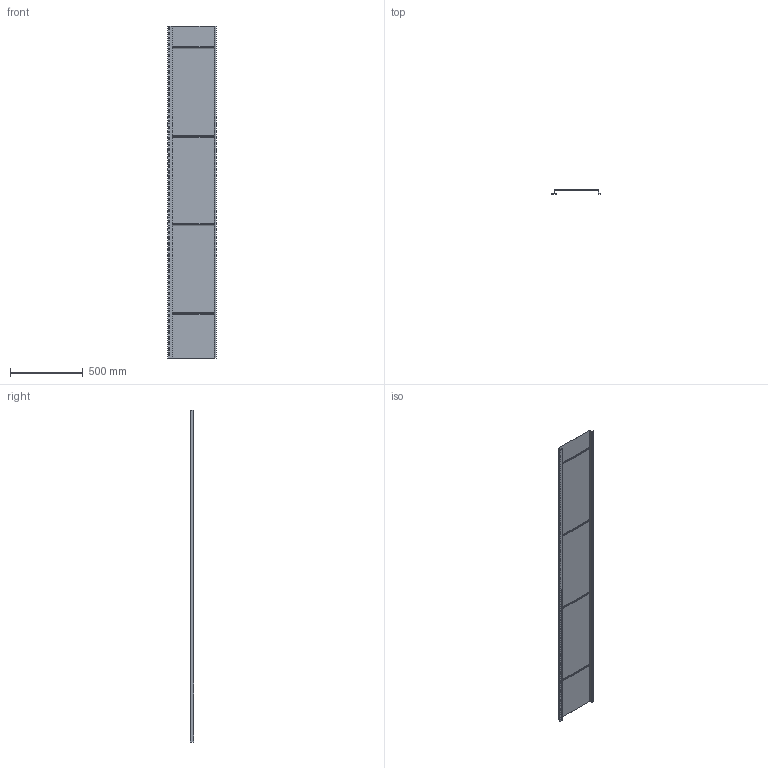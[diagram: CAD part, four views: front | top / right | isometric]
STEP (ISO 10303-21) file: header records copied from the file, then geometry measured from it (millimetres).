
FILE_DESCRIPTION(/* description */ (''),/* implementation_level */ '2;1');
FILE_NAME(/* name */ 'C:\Users\Utilisateur\Mac Metal\Site de communication - Documents\Ingénierie\1. Dessins techniques produits Mac\CAD _ REVIT Profiles drawing - MAC\Metal Block\METAL BLOCK.stp',/* time_stamp */ '2023-02-03T17:19:12-05:00',/* author */ ('Utilisateur'),/* organization */ (''),/* preprocessor_version */ 'ST-DEVELOPER v18.1',/* originating_system */ 'Autodesk Inventor 2022',/* authorisation */ '');
FILE_SCHEMA (('AUTOMOTIVE_DESIGN { 1 0 10303 214 3 1 1 }'));
Length unit declared in the file: inch
Products named in the file (1): METAL BLOCK
Bounding box: 333.98 x 25.4 x 2286 mm (x, y, z)
Volume: 606715.5 mm3; surface area: 1863437.5 mm2
Topology: 1 solids, 1 shells, 332 faces, 990 edges, 660 vertices
Faces by surface type: plane 168, cylinder 164
Entity records: 11573 total; most frequent: CARTESIAN_POINT 2063, ORIENTED_EDGE 1980, DIRECTION 1968, EDGE_CURVE 990, AXIS2_PLACEMENT_3D 661, VERTEX_POINT 660, LINE 646, VECTOR 646
